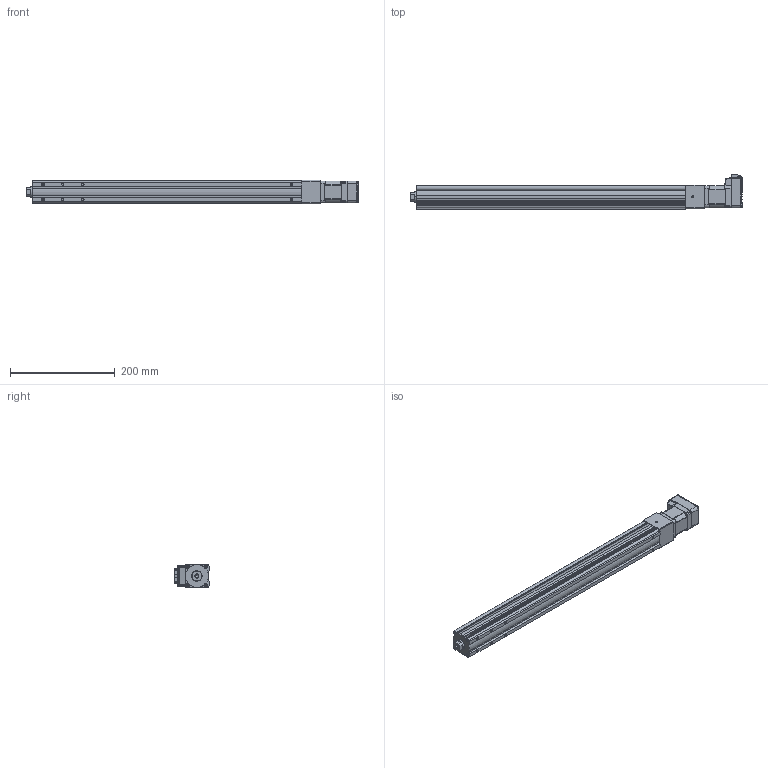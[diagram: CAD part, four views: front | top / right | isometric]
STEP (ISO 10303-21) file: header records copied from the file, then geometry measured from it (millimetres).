
FILE_DESCRIPTION (( 'STEP AP214' ), '1' );
FILE_NAME ('LEY3(+)-25DNM1□-400-17L.STEP', '2023-04-06T06:36:25', ( '' ), ( '' ), 'SwSTEP 2.0', 'SolidWorks 2019', '' );
FILE_SCHEMA (( 'AUTOMOTIVE_DESIGN' ));
Length unit declared in the file: millimetre
Products named in the file (5): LEY3(+)-25DNM1□-400-17L; LEY3(+)-25DNM1_MOTOR Flange; LEY3(+)-25NM1?_ROD_400; LEY3(+)-25NM1?_BODY_400; CM3(+)-17L50A
Assembly tree (4 placements, depth 2):
  LEY3(+)-25DNM1□-400-17L
    LEY3(+)-25NM1?_BODY_400
    LEY3(+)-25NM1?_ROD_400
    LEY3(+)-25DNM1_MOTOR Flange
    CM3(+)-17L50A
Bounding box: 634.8 x 66.75 x 45 mm (x, y, z)
Volume: 1037836.6 mm3; surface area: 207331.1 mm2
Topology: 4 solids, 4 shells, 878 faces, 2218 edges, 1385 vertices
Faces by surface type: plane 460, cylinder 245, cone 94, bspline 29, torus 29, sphere 21
Full cylindrical faces by diameter (mm): 2.5 x4, 3.5 x4, 4 x1, 4.2 x6, 5 x1, 8 x1, 11 x1, 22 x1, 33 x1
Entity records: 36750 total; most frequent: CARTESIAN_POINT 6496, ORIENTED_EDGE 4284, DIRECTION 4139, EDGE_CURVE 2142, AXIS2_PLACEMENT_3D 1383, VERTEX_POINT 1375, LINE 1373, VECTOR 1373
